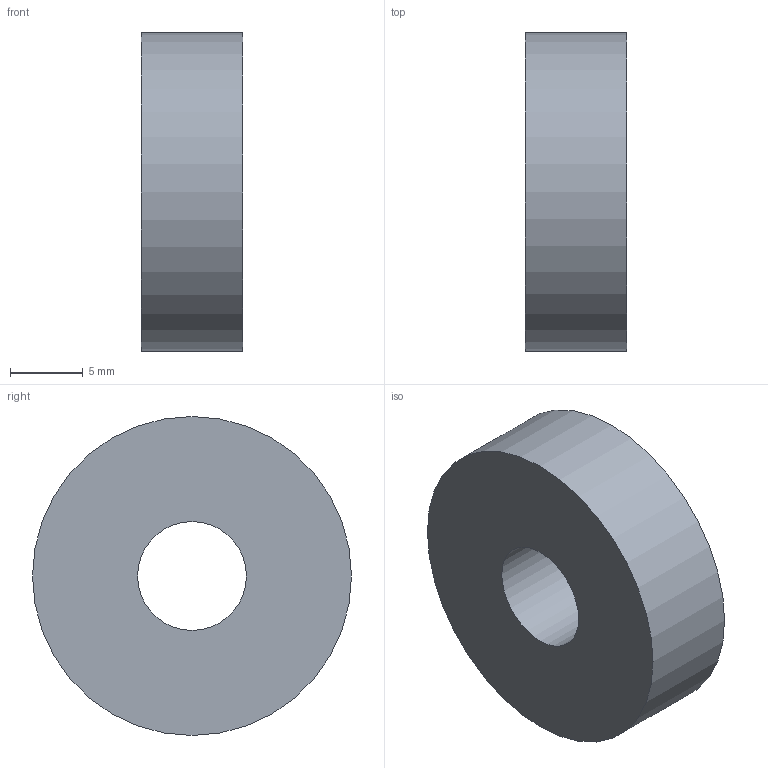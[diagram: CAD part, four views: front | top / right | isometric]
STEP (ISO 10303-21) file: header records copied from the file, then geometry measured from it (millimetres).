
FILE_DESCRIPTION(('Open CASCADE Model'),'2;1');
FILE_NAME('Open CASCADE Shape Model','2026-11-02T23:22:40',('Author'),( 'Open CASCADE'),'Open CASCADE STEP processor 7.9','Open CASCADE 7.9' ,'Unknown');
FILE_SCHEMA(('AUTOMOTIVE_DESIGN { 1 0 10303 214 1 1 1 1 }'));
Length unit declared in the file: millimetre
Products named in the file (1): Open CASCADE STEP translator 7.9 10
Bounding box: 6.98 x 22 x 22 mm (x, y, z)
Volume: 2345 mm3; surface area: 1318.8 mm2
Topology: 1 solids, 1 shells, 4 faces, 6 edges, 4 vertices
Faces by surface type: cylinder 2, plane 2
Full cylindrical faces by diameter (mm): 7.5 x1, 22 x1
Entity records: 186 total; most frequent: DIRECTION 32, CARTESIAN_POINT 27, ORIENTED_EDGE 12, PCURVE 12, DEFINITIONAL_REPRESENTATION 12, LINE 10, VECTOR 10, AXIS2_PLACEMENT_3D 9
